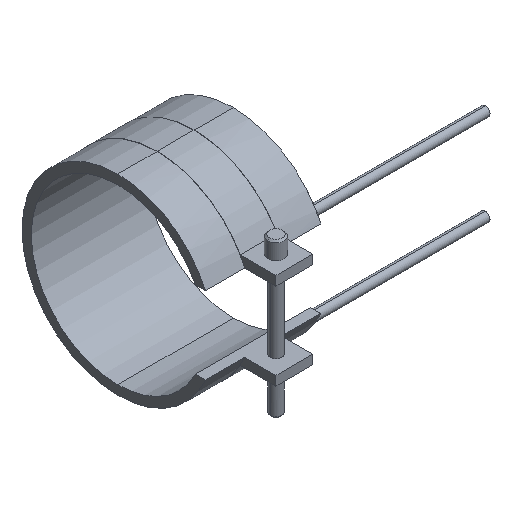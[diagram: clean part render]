
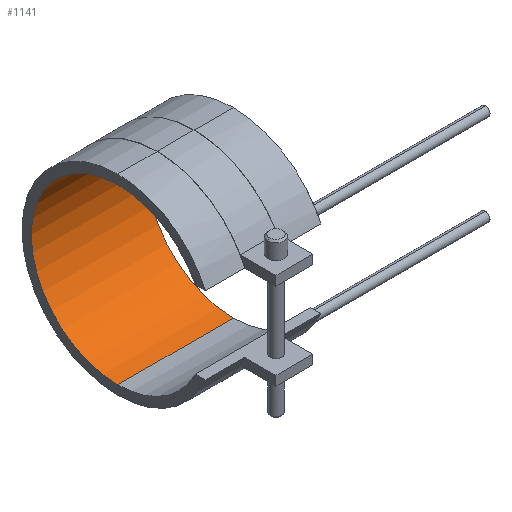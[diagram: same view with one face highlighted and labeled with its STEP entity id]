
A CAD part, isometric view. The second image highlights one B-rep face of the part: STEP entity #1141.
In plain terms, the highlighted cylindrical face has radius 37.5 mm (diameter 75 mm), a partial arc.
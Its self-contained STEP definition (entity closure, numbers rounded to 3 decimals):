
#822=CARTESIAN_POINT('Vertex',(-25.,0.,-37.5)) ;
#829=CARTESIAN_POINT('Vertex',(25.,0.,-37.5)) ;
#832=CARTESIAN_POINT('Line Origine',(25.,0.,-37.5)) ;
#850=CARTESIAN_POINT('Axis2P3D Location',(-25.,0.,0.)) ;
#854=CARTESIAN_POINT('Vertex',(-25.,0.,37.5)) ;
#911=CARTESIAN_POINT('Vertex',(25.,0.,37.5)) ;
#921=CARTESIAN_POINT('Line Origine',(25.,0.,37.5)) ;
#1012=CARTESIAN_POINT('Axis2P3D Location',(25.,0.,0.)) ;
#1130=CARTESIAN_POINT('Axis2P3D Location',(25.,0.,0.)) ;
#833=DIRECTION('Vector Direction',(1.,0.,0.)) ;
#851=DIRECTION('Axis2P3D Direction',(1.,0.,0.)) ;
#922=DIRECTION('Vector Direction',(1.,0.,0.)) ;
#1013=DIRECTION('Axis2P3D Direction',(1.,0.,0.)) ;
#1131=DIRECTION('Axis2P3D Direction',(1.,0.,-0.)) ;
#1132=DIRECTION('Axis2P3D XDirection',(0.,0.,-1.)) ;
#852=AXIS2_PLACEMENT_3D('Circle Axis2P3D',#850,#851,$) ;
#1014=AXIS2_PLACEMENT_3D('Circle Axis2P3D',#1012,#1013,$) ;
#1133=AXIS2_PLACEMENT_3D('Cylinder Axis2P3D',#1130,#1131,#1132) ;
#1136=ORIENTED_EDGE('',*,*,#1016,.T.) ;
#1137=ORIENTED_EDGE('',*,*,#925,.T.) ;
#1138=ORIENTED_EDGE('',*,*,#856,.F.) ;
#1139=ORIENTED_EDGE('',*,*,#836,.T.) ;
#834=VECTOR('Line Direction',#833,1.) ;
#923=VECTOR('Line Direction',#922,1.) ;
#1141=ADVANCED_FACE('14075050',(#1140),#1134,.F.) ;
#853=CIRCLE('generated circle',#852,37.5) ;
#1015=CIRCLE('generated circle',#1014,37.5) ;
#1134=CYLINDRICAL_SURFACE('generated cylinder',#1133,37.5) ;
#836=EDGE_CURVE('',#823,#830,#835,.T.) ;
#856=EDGE_CURVE('',#823,#855,#853,.T.) ;
#925=EDGE_CURVE('',#912,#855,#924,.F.) ;
#1016=EDGE_CURVE('',#830,#912,#1015,.T.) ;
#1135=EDGE_LOOP('',(#1136,#1137,#1138,#1139)) ;
#1140=FACE_OUTER_BOUND('',#1135,.T.) ;
#835=LINE('Line',#832,#834) ;
#924=LINE('Line',#921,#923) ;
#823=VERTEX_POINT('',#822) ;
#830=VERTEX_POINT('',#829) ;
#855=VERTEX_POINT('',#854) ;
#912=VERTEX_POINT('',#911) ;
